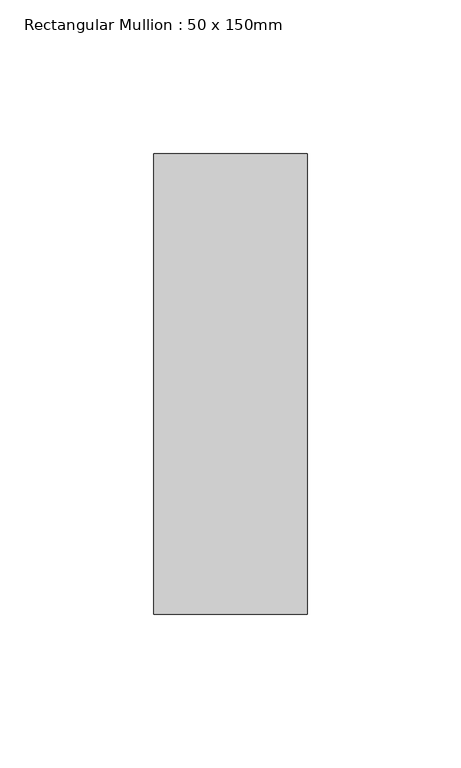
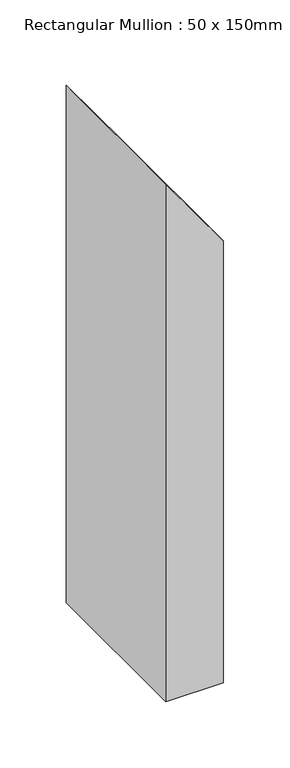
"""IFC4 building model written with IfcOpenShell, lengths in millimetres: member geometry, Rectangular Mullion : 50 x 150mm."""

from ifc_helpers import new_model, si_unit, frame, origin, place, context, project, spatial, polyline, outline, extrude, source, transform, mapped, element, save


def rectangular_mullion_50_x_150mm_93975400(model_context):
    return source(origin(), model_context, "Body", "SweptSolid", [
        extrude(outline(polyline([(0.0, 0.0), (69.3649788, -50.0), (-406.8245068, -50.0), (-406.8245068, 0.0), (0.0, 0.0)])), frame((0.0, -75.0, 0.0), z_axis=(0.0, 1.0, 0.0), x_axis=(0.0, 0.0, 1.0)), (0.0, 0.0, 1.0), 150.0),
    ])


if __name__ == "__main__":
    model = new_model("IFC4")
    model_context = context("Model", 3, world=origin())
    ifc_project = project(units=[si_unit("LENGTHUNIT", "METRE", prefix="MILLI")], contexts=[model_context])
    site = spatial("IfcSite", under=ifc_project)
    building = spatial("IfcBuilding", under=site)
    placement = place(None, origin())
    rectangular_mullion_50_x_150mm_shape = rectangular_mullion_50_x_150mm_93975400(model_context)
    element("IfcMember", 1, ObjectType="Rectangular Mullion : 50 x 150mm", at=placement, inside=building, context=model_context, shape_type="MappedRepresentation", body=[
        mapped(rectangular_mullion_50_x_150mm_shape, transform((0.0, 0.0, 0.0), x_axis=(1.0, 0.0, 0.0), y_axis=(0.0, 1.0, 0.0), z_axis=(0.0, 0.0, 1.0))),
    ])
    save(model, "model.ifc")
